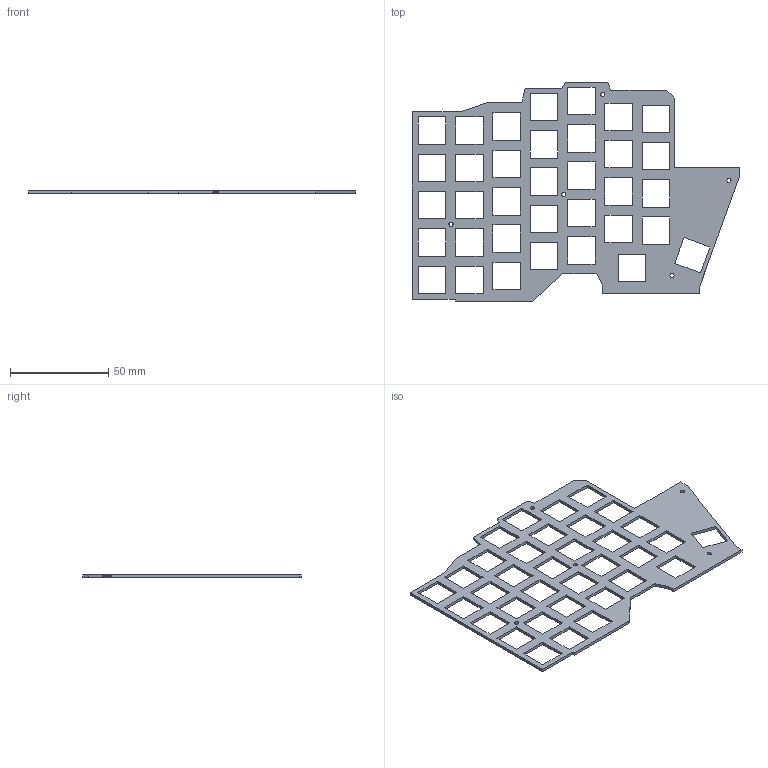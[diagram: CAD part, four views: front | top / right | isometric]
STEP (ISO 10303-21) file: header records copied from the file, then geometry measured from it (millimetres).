
FILE_DESCRIPTION(/* description */ (''),/* implementation_level */ '2;1');
FILE_NAME(/* name */ 'C:/Main_Storage/Keeb/Plate.step',/* time_stamp */ '2022-01-25T09:56:46-08:00',/* author */ (''),/* organization */ (''),/* preprocessor_version */ 'ST-DEVELOPER v18.1',/* originating_system */ 'Autodesk Translation Framework v10.13.0.1454',/* authorisation */ '');
FILE_SCHEMA (('AUTOMOTIVE_DESIGN { 1 0 10303 214 3 1 1 }'));
Length unit declared in the file: millimetre
Products named in the file (1): Plate
Bounding box: 166.56 x 111.45 x 1.5 mm (x, y, z)
Volume: 11895.6 mm3; surface area: 19860 mm2
Topology: 1 solids, 1 shells, 176 faces, 519 edges, 346 vertices
Faces by surface type: plane 171, cylinder 5
Full cylindrical faces by diameter (mm): 2.1 x5
Entity records: 5946 total; most frequent: CARTESIAN_POINT 1042, ORIENTED_EDGE 1038, DIRECTION 883, EDGE_CURVE 519, LINE 509, VECTOR 509, VERTEX_POINT 346, EDGE_LOOP 257
